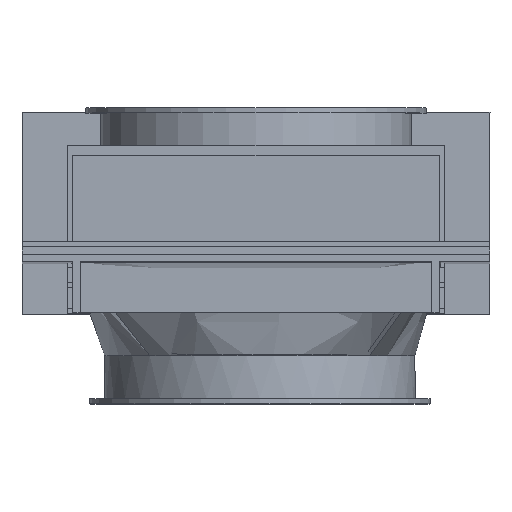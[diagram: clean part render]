
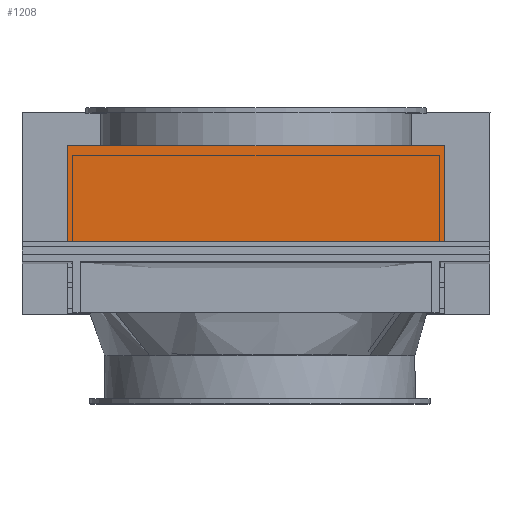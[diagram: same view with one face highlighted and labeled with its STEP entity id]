
A CAD part, top view. The second image highlights one B-rep face of the part: STEP entity #1208.
In plain terms, the highlighted planar face has unit normal (0, 0, 1) as drawn and (-1, 0, 0) by its records, which use the part's own axes.
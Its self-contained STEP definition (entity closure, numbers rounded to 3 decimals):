
#1169=CARTESIAN_POINT('',(-232.,18.,2.0));
#1170=DIRECTION('',(-1.0,0.0,0.0));
#1171=DIRECTION('',(0.0,0.0,1.0));
#1172=AXIS2_PLACEMENT_3D('',#1169,#1170,#1171);
#1173=PLANE('',#1172);
#1174=CARTESIAN_POINT('',(-232.,18.,40.0));
#1175=VERTEX_POINT('',#1174);
#1176=CARTESIAN_POINT('',(-232.,167.0,40.0));
#1177=VERTEX_POINT('',#1176);
#1178=CARTESIAN_POINT('',(-232.,18.,40.0));
#1179=DIRECTION('',(0.0,1.0,0.0));
#1180=VECTOR('',#1179,149.);
#1181=LINE('',#1178,#1180);
#1182=EDGE_CURVE('',#1175,#1177,#1181,.T.);
#1183=ORIENTED_EDGE('',*,*,#1182,.T.);
#1184=CARTESIAN_POINT('',(-232.,167.0,2.0));
#1185=VERTEX_POINT('',#1184);
#1186=CARTESIAN_POINT('',(-232.,167.0,2.0));
#1187=DIRECTION('',(0.0,0.0,1.0));
#1188=VECTOR('',#1187,38.0);
#1189=LINE('',#1186,#1188);
#1190=EDGE_CURVE('',#1185,#1177,#1189,.T.);
#1191=ORIENTED_EDGE('',*,*,#1190,.F.);
#1192=CARTESIAN_POINT('',(-232.,18.,2.0));
#1193=VERTEX_POINT('',#1192);
#1194=CARTESIAN_POINT('',(-232.,18.,2.0));
#1195=DIRECTION('',(0.0,1.0,0.0));
#1196=VECTOR('',#1195,149.);
#1197=LINE('',#1194,#1196);
#1198=EDGE_CURVE('',#1193,#1185,#1197,.T.);
#1199=ORIENTED_EDGE('',*,*,#1198,.F.);
#1200=CARTESIAN_POINT('',(-232.,18.,2.0));
#1201=DIRECTION('',(0.0,0.0,1.0));
#1202=VECTOR('',#1201,38.0);
#1203=LINE('',#1200,#1202);
#1204=EDGE_CURVE('',#1193,#1175,#1203,.T.);
#1205=ORIENTED_EDGE('',*,*,#1204,.T.);
#1206=EDGE_LOOP('',(#1183,#1191,#1199,#1205));
#1207=FACE_OUTER_BOUND('',#1206,.T.);
#1208=ADVANCED_FACE('',(#1207),#1173,.T.);
